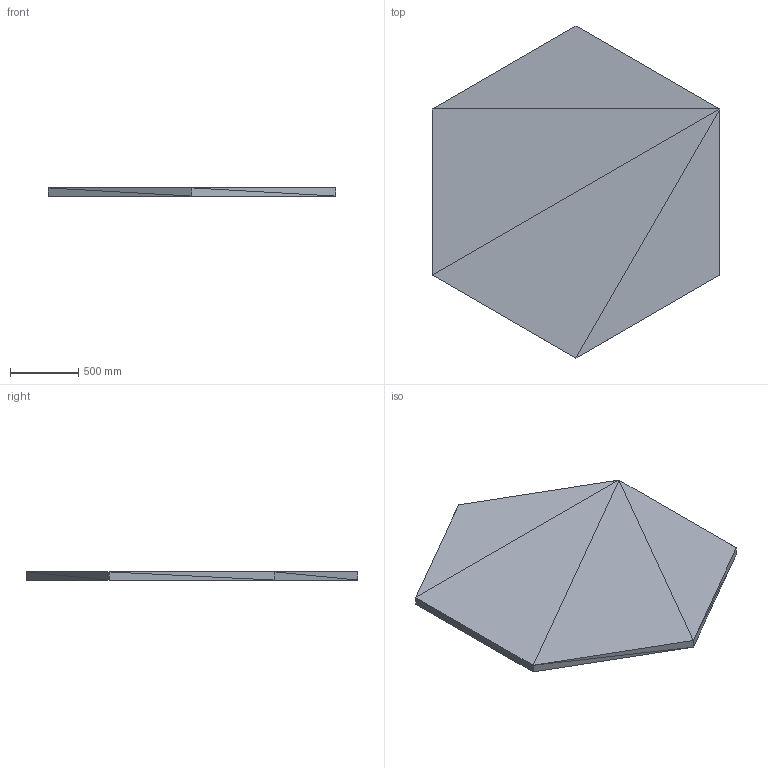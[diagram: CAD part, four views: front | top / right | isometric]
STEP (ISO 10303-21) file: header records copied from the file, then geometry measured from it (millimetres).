
FILE_DESCRIPTION(('ISINAC STEP AP214'),'2;1');
FILE_NAME('ISINAC_HEX.1220_60mm_ADHESIVO','2026-05-03T10:49:19',('ISINAC'),('www.isinac.com'),'ISINAC BIM Generator 1.0','','');
FILE_SCHEMA(('AUTOMOTIVE_DESIGN'));
Length unit declared in the file: millimetre
Products named in the file (1): ISINAC_HEX.1220_60mm_ADHESIVO
Bounding box: 2113.1 x 2440 x 60 mm (x, y, z)
Surface area: 8173153.3 mm2 (no closed solid volume)
Topology: 0 solids, 20 shells, 20 faces, 60 edges, 60 vertices
Faces by surface type: plane 20
Entity records: 233 total; most frequent: CARTESIAN_POINT 80, DIRECTION 40, POLY_LOOP 20, FACE_OUTER_BOUND 20, AXIS2_PLACEMENT_3D 20, PLANE 20, FACE_SURFACE 20, CLOSED_SHELL 1
